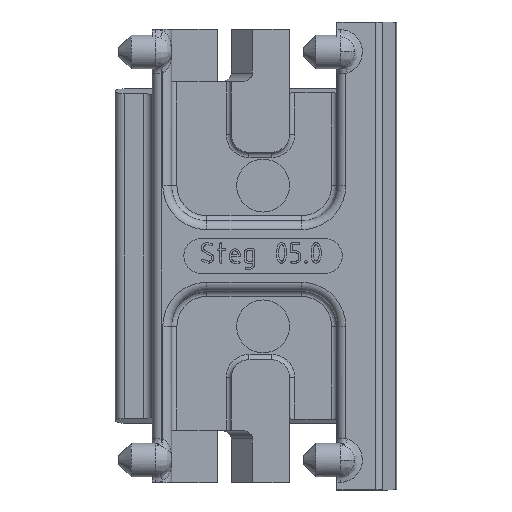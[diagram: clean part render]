
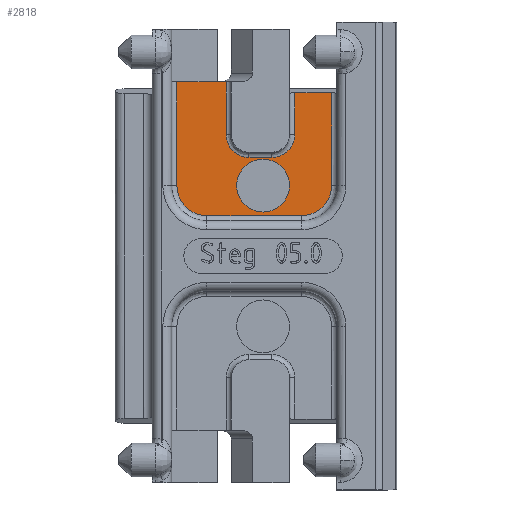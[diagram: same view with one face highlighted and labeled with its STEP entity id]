
A CAD part, top view. The second image highlights one B-rep face of the part: STEP entity #2818.
In plain terms, the highlighted planar face has unit normal (0, 0, 1).
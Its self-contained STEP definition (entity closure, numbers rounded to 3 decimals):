
#303=CARTESIAN_POINT('',(9.3,-3.5,-9.7));
#304=VERTEX_POINT('',#303);
#312=CARTESIAN_POINT('',(9.3,-6.5,-9.7));
#313=VERTEX_POINT('',#312);
#314=CARTESIAN_POINT('',(9.3,-6.5,-9.7));
#315=DIRECTION('',(0.0,1.0,0.0));
#316=VECTOR('',#315,3.);
#317=LINE('',#314,#316);
#318=EDGE_CURVE('',#313,#304,#317,.T.);
#350=CARTESIAN_POINT('',(10.6,-7.8,-9.7));
#351=VERTEX_POINT('',#350);
#361=CARTESIAN_POINT('',(11.9,-7.8,-9.7));
#362=VERTEX_POINT('',#361);
#363=CARTESIAN_POINT('',(11.9,-7.8,-9.7));
#364=DIRECTION('',(-1.0,0.0,0.0));
#365=VECTOR('',#364,1.3);
#366=LINE('',#363,#365);
#367=EDGE_CURVE('',#362,#351,#366,.T.);
#406=CARTESIAN_POINT('',(8.2,-11.1,-9.7));
#407=VERTEX_POINT('',#406);
#421=CARTESIAN_POINT('',(13.6,-11.1,-9.7));
#422=VERTEX_POINT('',#421);
#430=CARTESIAN_POINT('',(8.2,-11.1,-9.7));
#431=DIRECTION('',(1.0,0.0,0.0));
#432=VECTOR('',#431,5.4);
#433=LINE('',#430,#432);
#434=EDGE_CURVE('',#407,#422,#433,.T.);
#444=CARTESIAN_POINT('',(6.5,-3.5,-9.7));
#445=VERTEX_POINT('',#444);
#461=CARTESIAN_POINT('',(6.5,-9.4,-9.7));
#462=VERTEX_POINT('',#461);
#470=CARTESIAN_POINT('',(6.5,-3.5,-9.7));
#471=DIRECTION('',(0.0,-1.0,0.0));
#472=VECTOR('',#471,5.9);
#473=LINE('',#470,#472);
#474=EDGE_CURVE('',#445,#462,#473,.T.);
#2238=CARTESIAN_POINT('',(9.9,-9.4,-9.7));
#2239=VERTEX_POINT('',#2238);
#2240=CARTESIAN_POINT('',(11.4,-9.4,-9.7));
#2241=DIRECTION('',(0.0,0.0,1.0));
#2242=DIRECTION('',(1.0,0.0,0.0));
#2243=AXIS2_PLACEMENT_3D('',#2240,#2241,#2242);
#2244=CIRCLE('',#2243,1.5);
#2245=EDGE_CURVE('',#2239,#2239,#2244,.T.);
#2533=CARTESIAN_POINT('',(13.2,-6.5,-9.7));
#2534=VERTEX_POINT('',#2533);
#2542=CARTESIAN_POINT('',(13.2,-4.114,-9.7));
#2543=VERTEX_POINT('',#2542);
#2544=CARTESIAN_POINT('',(13.2,-4.114,-9.7));
#2545=DIRECTION('',(0.0,-1.0,0.0));
#2546=VECTOR('',#2545,2.386);
#2547=LINE('',#2544,#2546);
#2548=EDGE_CURVE('',#2543,#2534,#2547,.T.);
#2573=CARTESIAN_POINT('',(15.3,-4.114,-9.7));
#2574=VERTEX_POINT('',#2573);
#2584=CARTESIAN_POINT('',(15.3,-9.4,-9.7));
#2585=VERTEX_POINT('',#2584);
#2586=CARTESIAN_POINT('',(15.3,-9.4,-9.7));
#2587=DIRECTION('',(0.0,1.0,0.0));
#2588=VECTOR('',#2587,5.286);
#2589=LINE('',#2586,#2588);
#2590=EDGE_CURVE('',#2585,#2574,#2589,.T.);
#2754=CARTESIAN_POINT('',(10.9,-7.3,-9.7));
#2755=DIRECTION('',(0.0,0.0,-1.0));
#2756=DIRECTION('',(1.0,0.0,0.0));
#2757=AXIS2_PLACEMENT_3D('',#2754,#2755,#2756);
#2758=PLANE('',#2757);
#2759=ORIENTED_EDGE('',*,*,#2590,.T.);
#2760=CARTESIAN_POINT('',(15.3,-4.114,-9.7));
#2761=DIRECTION('',(-1.0,0.0,0.0));
#2762=VECTOR('',#2761,2.1);
#2763=LINE('',#2760,#2762);
#2764=EDGE_CURVE('',#2574,#2543,#2763,.T.);
#2765=ORIENTED_EDGE('',*,*,#2764,.T.);
#2766=ORIENTED_EDGE('',*,*,#2548,.T.);
#2767=CARTESIAN_POINT('',(11.9,-6.5,-9.7));
#2768=DIRECTION('',(0.0,0.0,-1.0));
#2769=DIRECTION('',(0.707,-0.707,0.0));
#2770=AXIS2_PLACEMENT_3D('',#2767,#2768,#2769);
#2771=CIRCLE('',#2770,1.3);
#2772=EDGE_CURVE('',#2534,#362,#2771,.T.);
#2773=ORIENTED_EDGE('',*,*,#2772,.T.);
#2774=ORIENTED_EDGE('',*,*,#367,.T.);
#2775=CARTESIAN_POINT('',(10.6,-6.5,-9.7));
#2776=DIRECTION('',(0.0,0.0,-1.0));
#2777=DIRECTION('',(-0.707,-0.707,0.0));
#2778=AXIS2_PLACEMENT_3D('',#2775,#2776,#2777);
#2779=CIRCLE('',#2778,1.3);
#2780=EDGE_CURVE('',#351,#313,#2779,.T.);
#2781=ORIENTED_EDGE('',*,*,#2780,.T.);
#2782=ORIENTED_EDGE('',*,*,#318,.T.);
#2783=CARTESIAN_POINT('',(8.4,-3.5,-9.7));
#2784=VERTEX_POINT('',#2783);
#2785=CARTESIAN_POINT('',(8.4,-3.5,-9.7));
#2786=DIRECTION('',(1.0,0.0,0.0));
#2787=VECTOR('',#2786,0.9);
#2788=LINE('',#2785,#2787);
#2789=EDGE_CURVE('',#2784,#304,#2788,.T.);
#2790=ORIENTED_EDGE('',*,*,#2789,.F.);
#2791=CARTESIAN_POINT('',(6.5,-3.5,-9.7));
#2792=DIRECTION('',(1.0,0.0,0.0));
#2793=VECTOR('',#2792,1.9);
#2794=LINE('',#2791,#2793);
#2795=EDGE_CURVE('',#445,#2784,#2794,.T.);
#2796=ORIENTED_EDGE('',*,*,#2795,.F.);
#2797=ORIENTED_EDGE('',*,*,#474,.T.);
#2798=CARTESIAN_POINT('',(8.2,-9.4,-9.7));
#2799=DIRECTION('',(0.0,0.0,1.0));
#2800=DIRECTION('',(-0.707,-0.707,0.0));
#2801=AXIS2_PLACEMENT_3D('',#2798,#2799,#2800);
#2802=CIRCLE('',#2801,1.7);
#2803=EDGE_CURVE('',#462,#407,#2802,.T.);
#2804=ORIENTED_EDGE('',*,*,#2803,.T.);
#2805=ORIENTED_EDGE('',*,*,#434,.T.);
#2806=CARTESIAN_POINT('',(13.6,-9.4,-9.7));
#2807=DIRECTION('',(0.0,0.0,1.0));
#2808=DIRECTION('',(0.707,-0.707,0.0));
#2809=AXIS2_PLACEMENT_3D('',#2806,#2807,#2808);
#2810=CIRCLE('',#2809,1.7);
#2811=EDGE_CURVE('',#422,#2585,#2810,.T.);
#2812=ORIENTED_EDGE('',*,*,#2811,.T.);
#2813=EDGE_LOOP('',(#2759,#2765,#2766,#2773,#2774,#2781,#2782,#2790,#2796,#2797,#2804,#2805,#2812));
#2814=FACE_OUTER_BOUND('',#2813,.T.);
#2815=ORIENTED_EDGE('',*,*,#2245,.F.);
#2816=EDGE_LOOP('',(#2815));
#2817=FACE_BOUND('',#2816,.T.);
#2818=ADVANCED_FACE('',(#2814,#2817),#2758,.F.);
